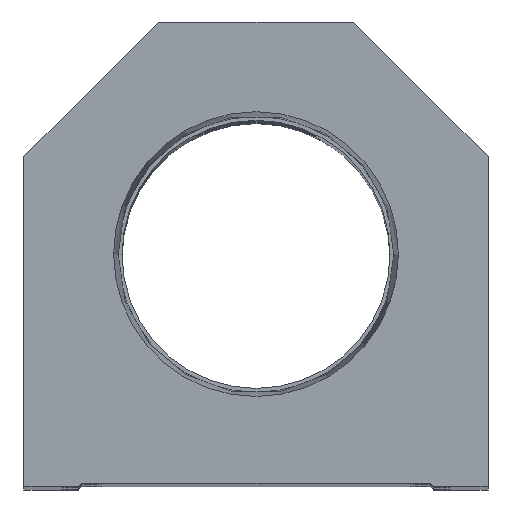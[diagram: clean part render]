
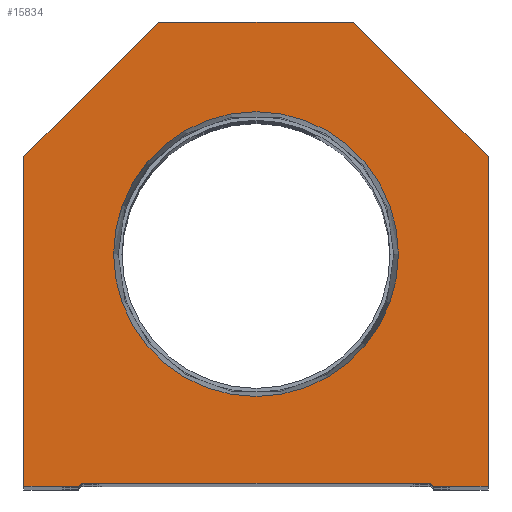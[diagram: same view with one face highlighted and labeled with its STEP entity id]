
A CAD part, top view. The second image highlights one B-rep face of the part: STEP entity #15834.
In plain terms, the highlighted planar face has unit normal (0, 0, 1).
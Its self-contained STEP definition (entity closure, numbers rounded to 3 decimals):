
#44 = ORIENTED_EDGE ( 'NONE', *, *, #17982, .T. ) ;
#179 = LINE ( 'NONE', #11354, #1840 ) ;
#247 = VERTEX_POINT ( 'NONE', #14734 ) ;
#263 = VECTOR ( 'NONE', #17438, 1000. ) ;
#327 = DIRECTION ( 'NONE',  ( 0.707, -0.707, 0. ) ) ;
#707 = DIRECTION ( 'NONE',  ( 0., 0., 1. ) ) ;
#792 = AXIS2_PLACEMENT_3D ( 'NONE', #1449, #18541, #4022 ) ;
#1107 = CARTESIAN_POINT ( 'NONE',  ( -28.6, 0., 0. ) ) ;
#1111 = CIRCLE ( 'NONE', #5669, 23.374 ) ;
#1157 = LINE ( 'NONE', #10845, #6026 ) ;
#1258 = CARTESIAN_POINT ( 'NONE',  ( -38.1, 0., 0. ) ) ;
#1276 = CARTESIAN_POINT ( 'NONE',  ( -16., 76.2, 0. ) ) ;
#1335 = EDGE_LOOP ( 'NONE', ( #17133, #15541, #3091, #8613, #11606, #11697, #10322, #44, #4175, #8481 ) ) ;
#1449 = CARTESIAN_POINT ( 'NONE',  ( 0., 38.1, 0. ) ) ;
#1830 = LINE ( 'NONE', #6478, #16829 ) ;
#1840 = VECTOR ( 'NONE', #11447, 1000. ) ;
#2941 = EDGE_CURVE ( 'NONE', #247, #17276, #17083, .T. ) ;
#3091 = ORIENTED_EDGE ( 'NONE', *, *, #3227, .T. ) ;
#3227 = EDGE_CURVE ( 'NONE', #15502, #17752, #14579, .T. ) ;
#3261 = VECTOR ( 'NONE', #12511, 1000. ) ;
#3936 = VECTOR ( 'NONE', #7961, 1000. ) ;
#3937 = EDGE_LOOP ( 'NONE', ( #6081, #16226 ) ) ;
#3954 = EDGE_CURVE ( 'NONE', #9736, #15593, #9751, .T. ) ;
#4022 = DIRECTION ( 'NONE',  ( 1., 0., 0. ) ) ;
#4175 = ORIENTED_EDGE ( 'NONE', *, *, #3954, .T. ) ;
#4328 = EDGE_CURVE ( 'NONE', #10057, #15287, #4511, .T. ) ;
#4511 = LINE ( 'NONE', #4608, #263 ) ;
#4608 = CARTESIAN_POINT ( 'NONE',  ( 38.1, 54.1, 0. ) ) ;
#4727 = EDGE_CURVE ( 'NONE', #15593, #16833, #11476, .T. ) ;
#5218 = CARTESIAN_POINT ( 'NONE',  ( -14.55, 14.55, 0. ) ) ;
#5460 = EDGE_CURVE ( 'NONE', #16687, #13720, #13740, .T. ) ;
#5669 = AXIS2_PLACEMENT_3D ( 'NONE', #11615, #7277, #7558 ) ;
#6026 = VECTOR ( 'NONE', #9334, 1000. ) ;
#6081 = ORIENTED_EDGE ( 'NONE', *, *, #2941, .F. ) ;
#6277 = CARTESIAN_POINT ( 'NONE',  ( 28.6, 0.5, 0. ) ) ;
#6348 = EDGE_CURVE ( 'NONE', #13720, #10057, #1157, .T. ) ;
#6478 = CARTESIAN_POINT ( 'NONE',  ( 14.55, 14.55, 0. ) ) ;
#6916 = LINE ( 'NONE', #5218, #3936 ) ;
#7000 = LINE ( 'NONE', #1107, #9354 ) ;
#7277 = DIRECTION ( 'NONE',  ( 0., 0., 1. ) ) ;
#7558 = DIRECTION ( 'NONE',  ( 1., 0., 0. ) ) ;
#7961 = DIRECTION ( 'NONE',  ( 0.707, 0.707, 0. ) ) ;
#8089 = CARTESIAN_POINT ( 'NONE',  ( 16., 76.2, 0. ) ) ;
#8456 = CARTESIAN_POINT ( 'NONE',  ( 38.1, 54.1, 0. ) ) ;
#8481 = ORIENTED_EDGE ( 'NONE', *, *, #4727, .T. ) ;
#8555 = EDGE_CURVE ( 'NONE', #17276, #247, #1111, .T. ) ;
#8593 = CARTESIAN_POINT ( 'NONE',  ( 29.1, 0., 0. ) ) ;
#8613 = ORIENTED_EDGE ( 'NONE', *, *, #9052, .T. ) ;
#9052 = EDGE_CURVE ( 'NONE', #17752, #16687, #1830, .T. ) ;
#9334 = DIRECTION ( 'NONE',  ( 0., 1., 0. ) ) ;
#9354 = VECTOR ( 'NONE', #12651, 1000. ) ;
#9736 = VERTEX_POINT ( 'NONE', #1276 ) ;
#9751 = LINE ( 'NONE', #14272, #11725 ) ;
#10057 = VERTEX_POINT ( 'NONE', #8456 ) ;
#10322 = ORIENTED_EDGE ( 'NONE', *, *, #4328, .T. ) ;
#10708 = CARTESIAN_POINT ( 'NONE',  ( -38.1, 54.1, 0. ) ) ;
#10845 = CARTESIAN_POINT ( 'NONE',  ( 38.1, 0., 0. ) ) ;
#10951 = PLANE ( 'NONE',  #16848 ) ;
#11354 = CARTESIAN_POINT ( 'NONE',  ( 16., 76.2, 0. ) ) ;
#11447 = DIRECTION ( 'NONE',  ( -1., 0., 0. ) ) ;
#11476 = LINE ( 'NONE', #1258, #17476 ) ;
#11530 = DIRECTION ( 'NONE',  ( -0.707, -0.707, 0. ) ) ;
#11606 = ORIENTED_EDGE ( 'NONE', *, *, #5460, .T. ) ;
#11615 = CARTESIAN_POINT ( 'NONE',  ( 0., 38.1, 0. ) ) ;
#11697 = ORIENTED_EDGE ( 'NONE', *, *, #6348, .T. ) ;
#11725 = VECTOR ( 'NONE', #11530, 1000. ) ;
#12296 = VECTOR ( 'NONE', #14672, 1000. ) ;
#12387 = VERTEX_POINT ( 'NONE', #14515 ) ;
#12511 = DIRECTION ( 'NONE',  ( 1., 0., 0. ) ) ;
#12639 = CARTESIAN_POINT ( 'NONE',  ( 38.1, 0., 0. ) ) ;
#12651 = DIRECTION ( 'NONE',  ( 1., 0., 0. ) ) ;
#13070 = CARTESIAN_POINT ( 'NONE',  ( -28.6, 0.5, 0. ) ) ;
#13720 = VERTEX_POINT ( 'NONE', #12639 ) ;
#13740 = LINE ( 'NONE', #13949, #3261 ) ;
#13949 = CARTESIAN_POINT ( 'NONE',  ( 28.6, 0., 0. ) ) ;
#13966 = CARTESIAN_POINT ( 'NONE',  ( 0., 0., 0. ) ) ;
#14272 = CARTESIAN_POINT ( 'NONE',  ( -38.1, 54.1, 0. ) ) ;
#14515 = CARTESIAN_POINT ( 'NONE',  ( -29.1, 0., 0. ) ) ;
#14579 = LINE ( 'NONE', #13070, #12296 ) ;
#14641 = CARTESIAN_POINT ( 'NONE',  ( -38.1, 0., 0. ) ) ;
#14672 = DIRECTION ( 'NONE',  ( 1., 0., 0. ) ) ;
#14734 = CARTESIAN_POINT ( 'NONE',  ( 23.374, 38.1, 0. ) ) ;
#15287 = VERTEX_POINT ( 'NONE', #8089 ) ;
#15370 = FACE_BOUND ( 'NONE', #3937, .T. ) ;
#15457 = DIRECTION ( 'NONE',  ( 1., 0., 0. ) ) ;
#15502 = VERTEX_POINT ( 'NONE', #15884 ) ;
#15541 = ORIENTED_EDGE ( 'NONE', *, *, #17905, .T. ) ;
#15593 = VERTEX_POINT ( 'NONE', #10708 ) ;
#15834 = ADVANCED_FACE ( 'NONE', ( #15370, #16677 ), #10951, .T. ) ;
#15884 = CARTESIAN_POINT ( 'NONE',  ( -28.6, 0.5, 0. ) ) ;
#16226 = ORIENTED_EDGE ( 'NONE', *, *, #8555, .F. ) ;
#16658 = EDGE_CURVE ( 'NONE', #16833, #12387, #7000, .T. ) ;
#16677 = FACE_OUTER_BOUND ( 'NONE', #1335, .T. ) ;
#16687 = VERTEX_POINT ( 'NONE', #8593 ) ;
#16829 = VECTOR ( 'NONE', #327, 1000. ) ;
#16833 = VERTEX_POINT ( 'NONE', #14641 ) ;
#16848 = AXIS2_PLACEMENT_3D ( 'NONE', #13966, #707, #15457 ) ;
#17083 = CIRCLE ( 'NONE', #792, 23.374 ) ;
#17133 = ORIENTED_EDGE ( 'NONE', *, *, #16658, .T. ) ;
#17276 = VERTEX_POINT ( 'NONE', #17700 ) ;
#17438 = DIRECTION ( 'NONE',  ( -0.707, 0.707, 0. ) ) ;
#17476 = VECTOR ( 'NONE', #18452, 1000. ) ;
#17700 = CARTESIAN_POINT ( 'NONE',  ( -23.374, 38.1, 0. ) ) ;
#17752 = VERTEX_POINT ( 'NONE', #6277 ) ;
#17905 = EDGE_CURVE ( 'NONE', #12387, #15502, #6916, .T. ) ;
#17982 = EDGE_CURVE ( 'NONE', #15287, #9736, #179, .T. ) ;
#18452 = DIRECTION ( 'NONE',  ( 0., -1., 0. ) ) ;
#18541 = DIRECTION ( 'NONE',  ( 0., 0., 1. ) ) ;
